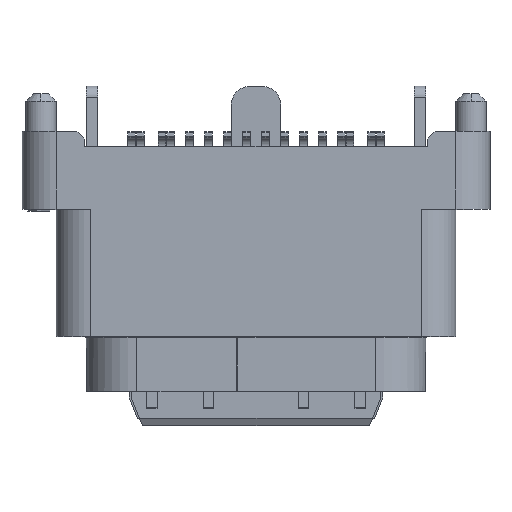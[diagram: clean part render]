
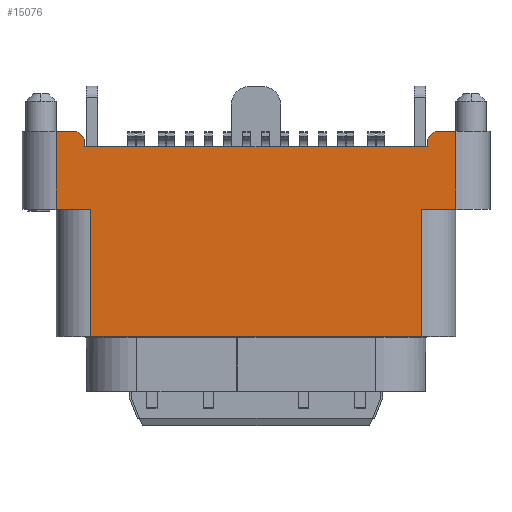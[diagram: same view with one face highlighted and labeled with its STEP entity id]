
A CAD part, top view. The second image highlights one B-rep face of the part: STEP entity #15076.
In plain terms, the highlighted planar face has unit normal (0, 0, 1).
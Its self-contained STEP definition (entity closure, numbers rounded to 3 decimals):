
#110 = LINE ( 'NONE', #7749, #12020 ) ;
#673 = ORIENTED_EDGE ( 'NONE', *, *, #20071, .F. ) ;
#719 = VERTEX_POINT ( 'NONE', #24124 ) ;
#941 = CARTESIAN_POINT ( 'NONE',  ( 5.27, 5., 2.38 ) ) ;
#1102 = VERTEX_POINT ( 'NONE', #10451 ) ;
#1243 = LINE ( 'NONE', #6881, #10846 ) ;
#1670 = VECTOR ( 'NONE', #9276, 1000. ) ;
#2038 = VECTOR ( 'NONE', #9682, 1000. ) ;
#2406 = CARTESIAN_POINT ( 'NONE',  ( -4.37, 1.65, 2.38 ) ) ;
#2418 = EDGE_CURVE ( 'NONE', #15845, #2858, #6463, .T. ) ;
#2669 = EDGE_LOOP ( 'NONE', ( #19949, #6480, #22752, #6292, #18847, #15644, #18531, #22243, #17256, #13072, #8450, #19765, #673, #9183 ) ) ;
#2858 = VERTEX_POINT ( 'NONE', #18285 ) ;
#2961 = VECTOR ( 'NONE', #11509, 1000. ) ;
#3079 = CARTESIAN_POINT ( 'NONE',  ( -4.52, 6.65, 2.38 ) ) ;
#3558 = DIRECTION ( 'NONE',  ( -1., 0., 0. ) ) ;
#3930 = VECTOR ( 'NONE', #22473, 1000. ) ;
#4495 = VERTEX_POINT ( 'NONE', #16038 ) ;
#4673 = DIRECTION ( 'NONE',  ( 1., 0., 0. ) ) ;
#5031 = PLANE ( 'NONE',  #9346 ) ;
#5819 = CARTESIAN_POINT ( 'NONE',  ( 5.27, 7.05, 2.38 ) ) ;
#6132 = VERTEX_POINT ( 'NONE', #18490 ) ;
#6280 = EDGE_CURVE ( 'NONE', #10930, #4495, #13509, .T. ) ;
#6292 = ORIENTED_EDGE ( 'NONE', *, *, #9568, .F. ) ;
#6463 = LINE ( 'NONE', #21709, #6841 ) ;
#6480 = ORIENTED_EDGE ( 'NONE', *, *, #8847, .T. ) ;
#6670 = LINE ( 'NONE', #12659, #8591 ) ;
#6841 = VECTOR ( 'NONE', #12217, 1000. ) ;
#6881 = CARTESIAN_POINT ( 'NONE',  ( 4.37, 1.65, 2.38 ) ) ;
#7037 = FACE_OUTER_BOUND ( 'NONE', #2669, .T. ) ;
#7222 = CARTESIAN_POINT ( 'NONE',  ( 5.27, 5., 2.38 ) ) ;
#7694 = LINE ( 'NONE', #5819, #16518 ) ;
#7718 = CARTESIAN_POINT ( 'NONE',  ( 4.37, 1.65, 2.38 ) ) ;
#7749 = CARTESIAN_POINT ( 'NONE',  ( -5.27, 7.05, 2.38 ) ) ;
#8315 = LINE ( 'NONE', #14057, #23134 ) ;
#8450 = ORIENTED_EDGE ( 'NONE', *, *, #2418, .F. ) ;
#8532 = DIRECTION ( 'NONE',  ( 0., 1., 0. ) ) ;
#8591 = VECTOR ( 'NONE', #23558, 1000. ) ;
#8761 = EDGE_CURVE ( 'NONE', #9156, #10236, #1243, .T. ) ;
#8847 = EDGE_CURVE ( 'NONE', #19066, #20632, #19141, .T. ) ;
#9027 = CARTESIAN_POINT ( 'NONE',  ( -4.72, 7.05, 2.38 ) ) ;
#9148 = CARTESIAN_POINT ( 'NONE',  ( 5.27, 5., 2.38 ) ) ;
#9156 = VERTEX_POINT ( 'NONE', #20741 ) ;
#9183 = ORIENTED_EDGE ( 'NONE', *, *, #8761, .T. ) ;
#9195 = CARTESIAN_POINT ( 'NONE',  ( 4.52, 6.65, 2.38 ) ) ;
#9276 = DIRECTION ( 'NONE',  ( 0., 1., 0. ) ) ;
#9346 = AXIS2_PLACEMENT_3D ( 'NONE', #10436, #14664, #4673 ) ;
#9469 = VERTEX_POINT ( 'NONE', #2406 ) ;
#9568 = EDGE_CURVE ( 'NONE', #1102, #16548, #19538, .T. ) ;
#9682 = DIRECTION ( 'NONE',  ( 0.707, 0.707, 0. ) ) ;
#10236 = VERTEX_POINT ( 'NONE', #20861 ) ;
#10436 = CARTESIAN_POINT ( 'NONE',  ( -4.97, 0., 2.38 ) ) ;
#10451 = CARTESIAN_POINT ( 'NONE',  ( 4.52, 6.85, 2.38 ) ) ;
#10719 = CARTESIAN_POINT ( 'NONE',  ( 5.27, 7.05, 2.38 ) ) ;
#10846 = VECTOR ( 'NONE', #8532, 1000. ) ;
#10930 = VERTEX_POINT ( 'NONE', #9027 ) ;
#11322 = LINE ( 'NONE', #15205, #21466 ) ;
#11509 = DIRECTION ( 'NONE',  ( 0.707, -0.707, 0. ) ) ;
#11631 = CARTESIAN_POINT ( 'NONE',  ( -4.72, 7.05, 2.38 ) ) ;
#11945 = LINE ( 'NONE', #23318, #15797 ) ;
#12020 = VECTOR ( 'NONE', #23133, 1000. ) ;
#12217 = DIRECTION ( 'NONE',  ( -1., 0., 0. ) ) ;
#12587 = LINE ( 'NONE', #3079, #19351 ) ;
#12659 = CARTESIAN_POINT ( 'NONE',  ( 4.52, 6.65, 2.38 ) ) ;
#12824 = EDGE_CURVE ( 'NONE', #6132, #4495, #12587, .T. ) ;
#12983 = CARTESIAN_POINT ( 'NONE',  ( -4.37, 5., 2.38 ) ) ;
#13072 = ORIENTED_EDGE ( 'NONE', *, *, #24560, .T. ) ;
#13478 = CARTESIAN_POINT ( 'NONE',  ( 4.72, 7.05, 2.38 ) ) ;
#13509 = LINE ( 'NONE', #11631, #2961 ) ;
#13953 = EDGE_CURVE ( 'NONE', #20632, #16548, #7694, .T. ) ;
#14057 = CARTESIAN_POINT ( 'NONE',  ( -4.52, 6.65, 2.38 ) ) ;
#14664 = DIRECTION ( 'NONE',  ( 0., 0., 1. ) ) ;
#14801 = EDGE_CURVE ( 'NONE', #19066, #10236, #24485, .T. ) ;
#14959 = DIRECTION ( 'NONE',  ( 0., 1., 0. ) ) ;
#15076 = ADVANCED_FACE ( 'NONE', ( #7037 ), #5031, .T. ) ;
#15205 = CARTESIAN_POINT ( 'NONE',  ( -4.37, 5., 2.38 ) ) ;
#15224 = LINE ( 'NONE', #7718, #3930 ) ;
#15644 = ORIENTED_EDGE ( 'NONE', *, *, #22692, .F. ) ;
#15797 = VECTOR ( 'NONE', #19564, 1000. ) ;
#15845 = VERTEX_POINT ( 'NONE', #12983 ) ;
#16038 = CARTESIAN_POINT ( 'NONE',  ( -4.52, 6.85, 2.38 ) ) ;
#16126 = VERTEX_POINT ( 'NONE', #9195 ) ;
#16317 = EDGE_CURVE ( 'NONE', #16126, #1102, #6670, .T. ) ;
#16518 = VECTOR ( 'NONE', #3558, 1000. ) ;
#16548 = VERTEX_POINT ( 'NONE', #13478 ) ;
#17256 = ORIENTED_EDGE ( 'NONE', *, *, #18108, .T. ) ;
#18108 = EDGE_CURVE ( 'NONE', #10930, #719, #11945, .T. ) ;
#18285 = CARTESIAN_POINT ( 'NONE',  ( -5.27, 5., 2.38 ) ) ;
#18490 = CARTESIAN_POINT ( 'NONE',  ( -4.52, 6.65, 2.38 ) ) ;
#18531 = ORIENTED_EDGE ( 'NONE', *, *, #12824, .T. ) ;
#18847 = ORIENTED_EDGE ( 'NONE', *, *, #16317, .F. ) ;
#19066 = VERTEX_POINT ( 'NONE', #941 ) ;
#19141 = LINE ( 'NONE', #9148, #1670 ) ;
#19316 = EDGE_CURVE ( 'NONE', #15845, #9469, #11322, .T. ) ;
#19351 = VECTOR ( 'NONE', #14959, 1000. ) ;
#19538 = LINE ( 'NONE', #20918, #2038 ) ;
#19564 = DIRECTION ( 'NONE',  ( -1., 0., 0. ) ) ;
#19765 = ORIENTED_EDGE ( 'NONE', *, *, #19316, .T. ) ;
#19820 = DIRECTION ( 'NONE',  ( 0., -1., 0. ) ) ;
#19949 = ORIENTED_EDGE ( 'NONE', *, *, #14801, .F. ) ;
#20071 = EDGE_CURVE ( 'NONE', #9156, #9469, #15224, .T. ) ;
#20632 = VERTEX_POINT ( 'NONE', #10719 ) ;
#20733 = DIRECTION ( 'NONE',  ( -1., 0., 0. ) ) ;
#20741 = CARTESIAN_POINT ( 'NONE',  ( 4.37, 1.65, 2.38 ) ) ;
#20861 = CARTESIAN_POINT ( 'NONE',  ( 4.37, 5., 2.38 ) ) ;
#20918 = CARTESIAN_POINT ( 'NONE',  ( 4.52, 6.85, 2.38 ) ) ;
#21466 = VECTOR ( 'NONE', #19820, 1000. ) ;
#21709 = CARTESIAN_POINT ( 'NONE',  ( -4.37, 5., 2.38 ) ) ;
#22243 = ORIENTED_EDGE ( 'NONE', *, *, #6280, .F. ) ;
#22473 = DIRECTION ( 'NONE',  ( -1., 0., 0. ) ) ;
#22692 = EDGE_CURVE ( 'NONE', #6132, #16126, #8315, .T. ) ;
#22752 = ORIENTED_EDGE ( 'NONE', *, *, #13953, .T. ) ;
#23133 = DIRECTION ( 'NONE',  ( 0., -1., 0. ) ) ;
#23134 = VECTOR ( 'NONE', #23563, 1000. ) ;
#23318 = CARTESIAN_POINT ( 'NONE',  ( -4.72, 7.05, 2.38 ) ) ;
#23558 = DIRECTION ( 'NONE',  ( 0., 1., 0. ) ) ;
#23563 = DIRECTION ( 'NONE',  ( 1., 0., 0. ) ) ;
#24077 = VECTOR ( 'NONE', #20733, 1000. ) ;
#24124 = CARTESIAN_POINT ( 'NONE',  ( -5.27, 7.05, 2.38 ) ) ;
#24485 = LINE ( 'NONE', #7222, #24077 ) ;
#24560 = EDGE_CURVE ( 'NONE', #719, #2858, #110, .T. ) ;
